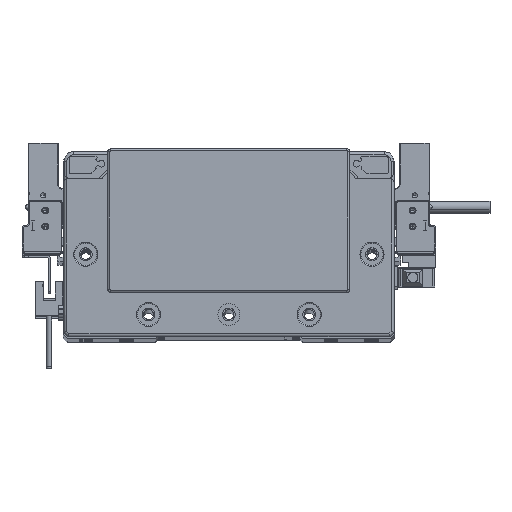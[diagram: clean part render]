
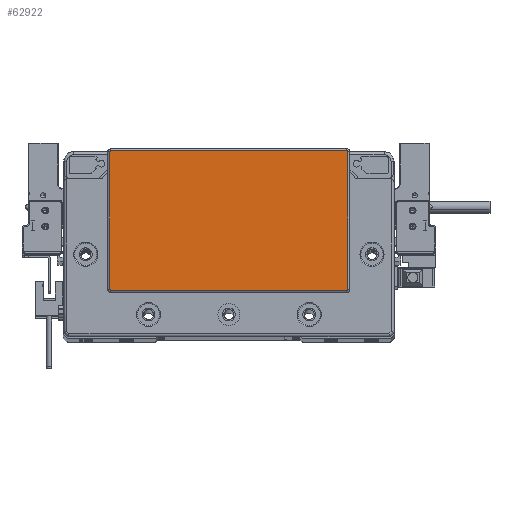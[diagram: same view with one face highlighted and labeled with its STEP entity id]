
A CAD part, top view. The second image highlights one B-rep face of the part: STEP entity #62922.
In plain terms, the highlighted planar face has unit normal (0, 0, 1) as drawn and (0, 0, -1) by its records, which use the part's own axes.
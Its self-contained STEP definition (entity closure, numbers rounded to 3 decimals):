
#272 = ORIENTED_EDGE ( 'NONE', *, *, #69150, .T. ) ;
#639 = AXIS2_PLACEMENT_3D ( 'NONE', #95838, #69413, #85897 ) ;
#1269 = EDGE_CURVE ( 'NONE', #77191, #63022, #102020, .T. ) ;
#5516 = CARTESIAN_POINT ( 'NONE',  ( -58.75, 45.3, -2. ) ) ;
#5653 = ORIENTED_EDGE ( 'NONE', *, *, #1269, .T. ) ;
#6621 = CARTESIAN_POINT ( 'NONE',  ( 59.25, 45.3, -2. ) ) ;
#6667 = CARTESIAN_POINT ( 'NONE',  ( -58.75, -23.3, -2. ) ) ;
#11711 = LINE ( 'NONE', #12241, #51288 ) ;
#11737 = CIRCLE ( 'NONE', #56043, 0.5 ) ;
#12241 = CARTESIAN_POINT ( 'NONE',  ( -58.75, -23.8, -2. ) ) ;
#13145 = ORIENTED_EDGE ( 'NONE', *, *, #75831, .T. ) ;
#19697 = CARTESIAN_POINT ( 'NONE',  ( 58.75, 45.8, -2. ) ) ;
#20491 = VERTEX_POINT ( 'NONE', #41823 ) ;
#21773 = DIRECTION ( 'NONE',  ( -1., 0., 0. ) ) ;
#26066 = DIRECTION ( 'NONE',  ( 0., 0., -1. ) ) ;
#27036 = CIRCLE ( 'NONE', #86575, 0.5 ) ;
#27137 = DIRECTION ( 'NONE',  ( 0., -1., 0. ) ) ;
#32327 = ORIENTED_EDGE ( 'NONE', *, *, #38480, .T. ) ;
#35083 = CARTESIAN_POINT ( 'NONE',  ( -59.25, 45.3, -2. ) ) ;
#37835 = ORIENTED_EDGE ( 'NONE', *, *, #38064, .T. ) ;
#38064 = EDGE_CURVE ( 'NONE', #63022, #78959, #47363, .T. ) ;
#38480 = EDGE_CURVE ( 'NONE', #104247, #59919, #27036, .T. ) ;
#39204 = DIRECTION ( 'NONE',  ( -1., 0., 0. ) ) ;
#39915 = PLANE ( 'NONE',  #639 ) ;
#41713 = VERTEX_POINT ( 'NONE', #57570 ) ;
#41823 = CARTESIAN_POINT ( 'NONE',  ( -58.75, -23.8, -2. ) ) ;
#43809 = DIRECTION ( 'NONE',  ( 0., 0., -1. ) ) ;
#46446 = EDGE_CURVE ( 'NONE', #20491, #77191, #61293, .T. ) ;
#47363 = CIRCLE ( 'NONE', #89936, 0.5 ) ;
#47735 = CARTESIAN_POINT ( 'NONE',  ( 58.75, 45.8, -2. ) ) ;
#50029 = ORIENTED_EDGE ( 'NONE', *, *, #92549, .T. ) ;
#51288 = VECTOR ( 'NONE', #86305, 1000. ) ;
#52250 = ORIENTED_EDGE ( 'NONE', *, *, #46446, .T. ) ;
#55932 = VECTOR ( 'NONE', #61575, 1000. ) ;
#56043 = AXIS2_PLACEMENT_3D ( 'NONE', #90545, #26066, #84649 ) ;
#56773 = LINE ( 'NONE', #47735, #59871 ) ;
#57512 = EDGE_CURVE ( 'NONE', #78959, #104247, #56773, .T. ) ;
#57570 = CARTESIAN_POINT ( 'NONE',  ( 59.25, -23.3, -2. ) ) ;
#59871 = VECTOR ( 'NONE', #79196, 1000. ) ;
#59919 = VERTEX_POINT ( 'NONE', #6621 ) ;
#60174 = CARTESIAN_POINT ( 'NONE',  ( 59.25, -23.3, -2. ) ) ;
#61293 = CIRCLE ( 'NONE', #100409, 0.5 ) ;
#61575 = DIRECTION ( 'NONE',  ( 0., 1., 0. ) ) ;
#62922 = ADVANCED_FACE ( 'NONE', ( #104890 ), #39915, .T. ) ;
#63022 = VERTEX_POINT ( 'NONE', #35083 ) ;
#63190 = DIRECTION ( 'NONE',  ( 0., 0., -1. ) ) ;
#64271 = ORIENTED_EDGE ( 'NONE', *, *, #57512, .T. ) ;
#64484 = EDGE_LOOP ( 'NONE', ( #13145, #272, #50029, #52250, #5653, #37835, #64271, #32327 ) ) ;
#68969 = DIRECTION ( 'NONE',  ( -1., 0., 0. ) ) ;
#69150 = EDGE_CURVE ( 'NONE', #41713, #79055, #11737, .T. ) ;
#69413 = DIRECTION ( 'NONE',  ( 0., 0., -1. ) ) ;
#70096 = CARTESIAN_POINT ( 'NONE',  ( -59.25, 45.3, -2. ) ) ;
#75831 = EDGE_CURVE ( 'NONE', #59919, #41713, #100625, .T. ) ;
#77191 = VERTEX_POINT ( 'NONE', #82220 ) ;
#78959 = VERTEX_POINT ( 'NONE', #83517 ) ;
#79055 = VERTEX_POINT ( 'NONE', #91502 ) ;
#79196 = DIRECTION ( 'NONE',  ( 1., 0., 0. ) ) ;
#82220 = CARTESIAN_POINT ( 'NONE',  ( -59.25, -23.3, -2. ) ) ;
#83517 = CARTESIAN_POINT ( 'NONE',  ( -58.75, 45.8, -2. ) ) ;
#84649 = DIRECTION ( 'NONE',  ( -1., 0., 0. ) ) ;
#85897 = DIRECTION ( 'NONE',  ( -1., 0., 0. ) ) ;
#86305 = DIRECTION ( 'NONE',  ( -1., 0., 0. ) ) ;
#86575 = AXIS2_PLACEMENT_3D ( 'NONE', #94752, #43809, #21773 ) ;
#88664 = VECTOR ( 'NONE', #27137, 1000. ) ;
#89936 = AXIS2_PLACEMENT_3D ( 'NONE', #5516, #92902, #68969 ) ;
#90545 = CARTESIAN_POINT ( 'NONE',  ( 58.75, -23.3, -2. ) ) ;
#91502 = CARTESIAN_POINT ( 'NONE',  ( 58.75, -23.8, -2. ) ) ;
#92549 = EDGE_CURVE ( 'NONE', #79055, #20491, #11711, .T. ) ;
#92902 = DIRECTION ( 'NONE',  ( 0., 0., -1. ) ) ;
#94752 = CARTESIAN_POINT ( 'NONE',  ( 58.75, 45.3, -2. ) ) ;
#95838 = CARTESIAN_POINT ( 'NONE',  ( 0., 0., -2. ) ) ;
#100409 = AXIS2_PLACEMENT_3D ( 'NONE', #6667, #63190, #39204 ) ;
#100625 = LINE ( 'NONE', #60174, #88664 ) ;
#102020 = LINE ( 'NONE', #70096, #55932 ) ;
#104247 = VERTEX_POINT ( 'NONE', #19697 ) ;
#104890 = FACE_OUTER_BOUND ( 'NONE', #64484, .T. ) ;
